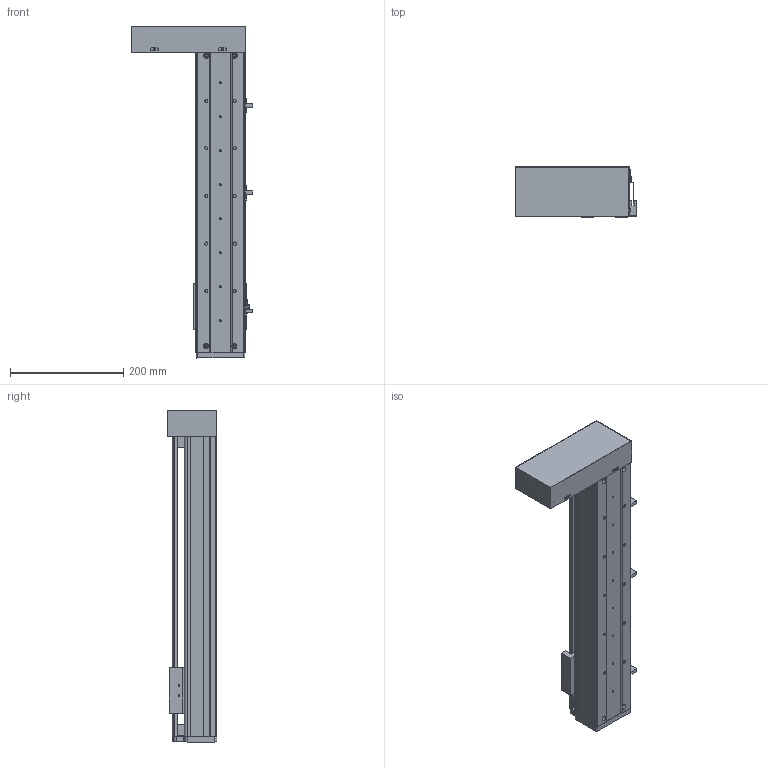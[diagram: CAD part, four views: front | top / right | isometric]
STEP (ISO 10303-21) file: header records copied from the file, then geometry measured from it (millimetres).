
FILE_DESCRIPTION (( 'STEP AP214' ), '1' );
FILE_NAME ('CF86-C-350-FWL.STEP', '2020-01-15T08:29:58', ( '微软用户' ), ( '微软中国' ), 'SwSTEP 2.0', 'SolidWorks 2016', '' );
FILE_SCHEMA (( 'AUTOMOTIVE_DESIGN' ));
Length unit declared in the file: millimetre
Products named in the file (13): CF86賑輸; 02 86盓傅釱; 01 86嘐隅釱; EGW15CA賑輸; EGR15-350; 86臏倰第-350; 86裔啣-350; 86耜啣; CF86-C-350-FWL; 嫖萇羲壽; 75-86-95癹弇羲壽覜茼え; CF86肮祭湍欶酘殏; CF86左折弯电机安装板
Assembly tree (14 placements, depth 2):
  CF86-C-350-FWL
    86耜啣
    86裔啣-350
    86臏倰第-350
    EGR15-350
    EGW15CA賑輸
    01 86嘐隅釱
    02 86盓傅釱
    CF86賑輸
    CF86左折弯电机安装板
    CF86肮祭湍欶酘殏
    75-86-95癹弇羲壽覜茼え
    嫖萇羲壽  x3
Bounding box: 215.22 x 88 x 586 mm (x, y, z)
Volume: 1573831.2 mm3; surface area: 623599.7 mm2
Topology: 14 solids, 14 shells, 663 faces, 1799 edges, 1190 vertices
Faces by surface type: plane 362, cylinder 293, cone 8
Entity records: 21200 total; most frequent: CARTESIAN_POINT 3604, DIRECTION 3437, ORIENTED_EDGE 3294, EDGE_CURVE 1647, AXIS2_PLACEMENT_3D 1203, VERTEX_POINT 1094, LINE 1031, VECTOR 1031
